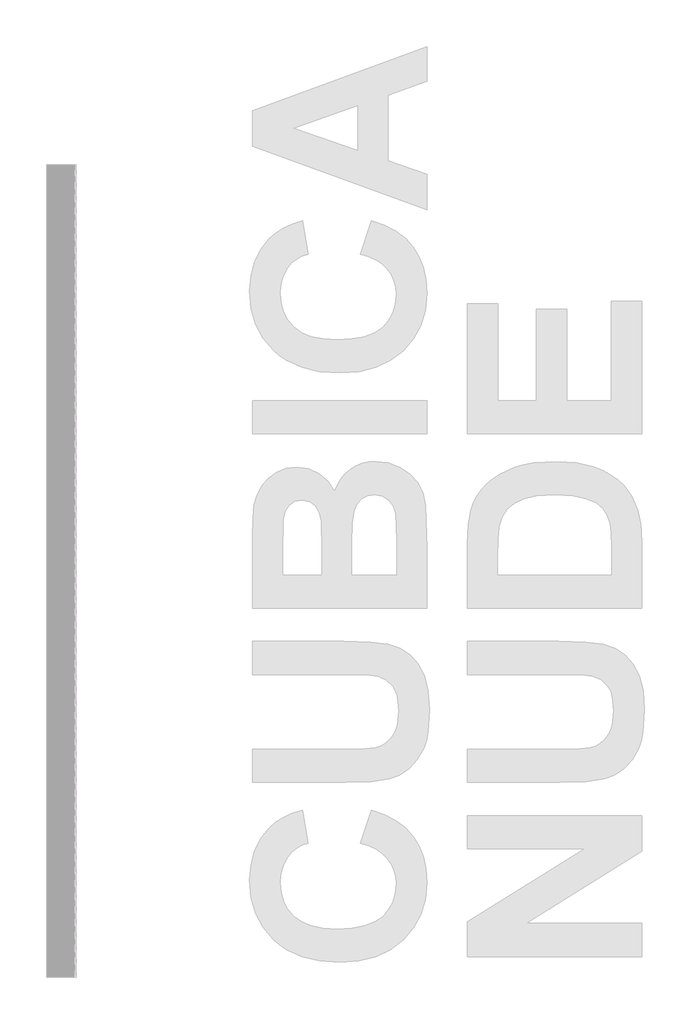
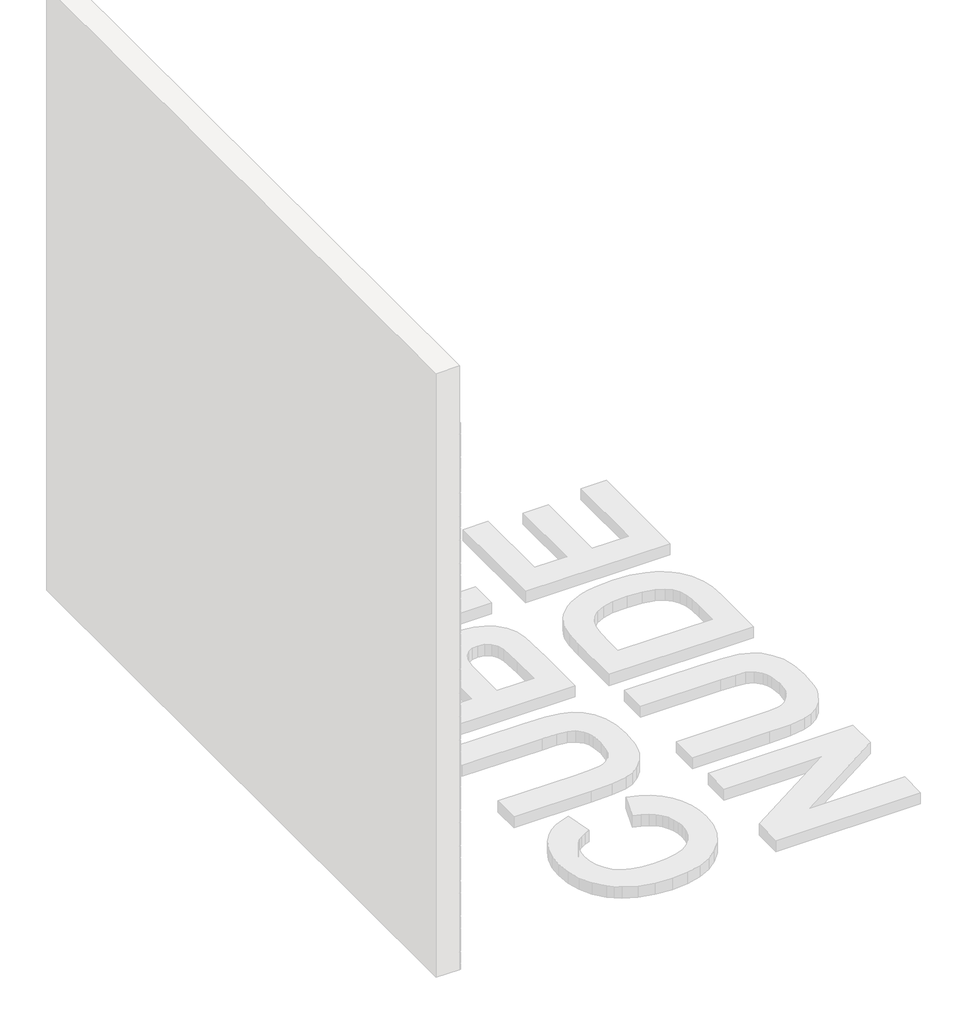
# One storey, part 64 of 121: 145 proxies.
"""IFC4 building model written with IfcOpenShell, lengths in millimetres."""

from ifc_helpers import new_model, si_unit, origin, place, context, project, spatial, transform, mapped, element, save
from components import generic_models_b2b2c5c1, generic_models_9bf73f6f, generic_models_5d175859, generic_models_95f85f1d

model = new_model("IFC4")

# Units and contexts
model_context = context("Model", 3, world=origin())
ifc_project = project(units=[si_unit("LENGTHUNIT", "METRE", prefix="MILLI")], contexts=[model_context])

# Site, building, storey
site = spatial("IfcSite", under=ifc_project)
building = spatial("IfcBuilding", under=site)
storey = spatial("IfcBuildingStorey", under=building, Name="PORTOBELLO - SHOWROOM", Elevation=0.0)

# Proxies
placement = place(None, origin())
generic_models_shape = generic_models_b2b2c5c1(model_context)
element("IfcBuildingElementProxy", 1, Name="PBSHOP - CUBICA NUDE 4,8X8,3 : CUBICA NUDE - POSIÇÃO 01", ObjectType="PBSHOP - CUBICA NUDE 4,8X8,3 : CUBICA NUDE - POSIÇÃO 01", at=placement, inside=storey, context=model_context, shape_type="MappedRepresentation", body=[
    mapped(generic_models_shape, transform((150369.5341846, 8940.0472844, 39.4221668), x_axis=(0.0, 1.0, 0.0), y_axis=(0.0, 0.0, 1.0), z_axis=(1.0, 0.0, 0.0))),
])
element("IfcBuildingElementProxy", 2, Name="PBSHOP - CUBICA NUDE 4,8X8,3 : CUBICA NUDE - POSIÇÃO 01", ObjectType="PBSHOP - CUBICA NUDE 4,8X8,3 : CUBICA NUDE - POSIÇÃO 01", at=placement, inside=storey, context=model_context, shape_type="MappedRepresentation", body=[
    mapped(generic_models_shape, transform((150369.5341846, 8077.0742266, 118.3568052), x_axis=(0.0, 1.0, 0.0), y_axis=(0.0, 0.0, 1.0), z_axis=(1.0, 0.0, 0.0))),
])
element("IfcBuildingElementProxy", 3, Name="PBSHOP - CUBICA NUDE 4,8X8,3 : CUBICA NUDE - POSIÇÃO 01", ObjectType="PBSHOP - CUBICA NUDE 4,8X8,3 : CUBICA NUDE - POSIÇÃO 01", at=placement, inside=storey, context=model_context, shape_type="MappedRepresentation", body=[
    mapped(generic_models_shape, transform((150369.5341846, 8167.9134958, 118.3568052), x_axis=(0.0, 1.0, 0.0), y_axis=(0.0, 0.0, 1.0), z_axis=(1.0, 0.0, 0.0))),
])
element("IfcBuildingElementProxy", 4, Name="PBSHOP - CUBICA NUDE 4,8X8,3 : CUBICA NUDE - POSIÇÃO 01", ObjectType="PBSHOP - CUBICA NUDE 4,8X8,3 : CUBICA NUDE - POSIÇÃO 01", at=placement, inside=storey, context=model_context, shape_type="MappedRepresentation", body=[
    mapped(generic_models_shape, transform((150369.5341846, 8258.7527651, 118.3568052), x_axis=(0.0, 1.0, 0.0), y_axis=(0.0, 0.0, 1.0), z_axis=(1.0, 0.0, 0.0))),
])
element("IfcBuildingElementProxy", 5, Name="PBSHOP - CUBICA NUDE 4,8X8,3 : CUBICA NUDE - POSIÇÃO 01", ObjectType="PBSHOP - CUBICA NUDE 4,8X8,3 : CUBICA NUDE - POSIÇÃO 01", at=placement, inside=storey, context=model_context, shape_type="MappedRepresentation", body=[
    mapped(generic_models_shape, transform((150369.5341846, 8349.5920343, 118.3568052), x_axis=(0.0, 1.0, 0.0), y_axis=(0.0, 0.0, 1.0), z_axis=(1.0, 0.0, 0.0))),
])
element("IfcBuildingElementProxy", 6, Name="PBSHOP - CUBICA NUDE 4,8X8,3 : CUBICA NUDE - POSIÇÃO 01", ObjectType="PBSHOP - CUBICA NUDE 4,8X8,3 : CUBICA NUDE - POSIÇÃO 01", at=placement, inside=storey, context=model_context, shape_type="MappedRepresentation", body=[
    mapped(generic_models_shape, transform((150369.5341846, 8440.4313036, 118.3568052), x_axis=(0.0, 1.0, 0.0), y_axis=(0.0, 0.0, 1.0), z_axis=(1.0, 0.0, 0.0))),
])
element("IfcBuildingElementProxy", 7, Name="PBSHOP - CUBICA NUDE 4,8X8,3 : CUBICA NUDE - POSIÇÃO 01", ObjectType="PBSHOP - CUBICA NUDE 4,8X8,3 : CUBICA NUDE - POSIÇÃO 01", at=placement, inside=storey, context=model_context, shape_type="MappedRepresentation", body=[
    mapped(generic_models_shape, transform((150369.5341846, 8531.2705728, 118.3568052), x_axis=(0.0, 1.0, 0.0), y_axis=(0.0, 0.0, 1.0), z_axis=(1.0, 0.0, 0.0))),
])
element("IfcBuildingElementProxy", 8, Name="PBSHOP - CUBICA NUDE 4,8X8,3 : CUBICA NUDE - POSIÇÃO 01", ObjectType="PBSHOP - CUBICA NUDE 4,8X8,3 : CUBICA NUDE - POSIÇÃO 01", at=placement, inside=storey, context=model_context, shape_type="MappedRepresentation", body=[
    mapped(generic_models_shape, transform((150369.5341846, 8622.109842, 118.3568052), x_axis=(0.0, 1.0, 0.0), y_axis=(0.0, 0.0, 1.0), z_axis=(1.0, 0.0, 0.0))),
])
element("IfcBuildingElementProxy", 9, Name="PBSHOP - CUBICA NUDE 4,8X8,3 : CUBICA NUDE - POSIÇÃO 01", ObjectType="PBSHOP - CUBICA NUDE 4,8X8,3 : CUBICA NUDE - POSIÇÃO 01", at=placement, inside=storey, context=model_context, shape_type="MappedRepresentation", body=[
    mapped(generic_models_shape, transform((150369.5341846, 8712.9491113, 118.3568052), x_axis=(0.0, 1.0, 0.0), y_axis=(0.0, 0.0, 1.0), z_axis=(1.0, 0.0, 0.0))),
])
element("IfcBuildingElementProxy", 10, Name="PBSHOP - CUBICA NUDE 4,8X8,3 : CUBICA NUDE - POSIÇÃO 01", ObjectType="PBSHOP - CUBICA NUDE 4,8X8,3 : CUBICA NUDE - POSIÇÃO 01", at=placement, inside=storey, context=model_context, shape_type="MappedRepresentation", body=[
    mapped(generic_models_shape, transform((150369.5341846, 8803.7883805, 118.3568052), x_axis=(0.0, 1.0, 0.0), y_axis=(0.0, 0.0, 1.0), z_axis=(1.0, 0.0, 0.0))),
])
element("IfcBuildingElementProxy", 11, Name="PBSHOP - CUBICA NUDE 4,8X8,3 : CUBICA NUDE - POSIÇÃO 01", ObjectType="PBSHOP - CUBICA NUDE 4,8X8,3 : CUBICA NUDE - POSIÇÃO 01", at=placement, inside=storey, context=model_context, shape_type="MappedRepresentation", body=[
    mapped(generic_models_shape, transform((150369.5341846, 8894.6276498, 118.3568052), x_axis=(0.0, 1.0, 0.0), y_axis=(0.0, 0.0, 1.0), z_axis=(1.0, 0.0, 0.0))),
])
element("IfcBuildingElementProxy", 12, Name="PBSHOP - CUBICA NUDE 4,8X8,3 : CUBICA NUDE - POSIÇÃO 01", ObjectType="PBSHOP - CUBICA NUDE 4,8X8,3 : CUBICA NUDE - POSIÇÃO 01", at=placement, inside=storey, context=model_context, shape_type="MappedRepresentation", body=[
    mapped(generic_models_shape, transform((150369.5341846, 8985.466919, 118.3568052), x_axis=(0.0, 1.0, 0.0), y_axis=(0.0, 0.0, 1.0), z_axis=(1.0, 0.0, 0.0))),
])
element("IfcBuildingElementProxy", 13, Name="PBSHOP - CUBICA NUDE 4,8X8,3 : CUBICA NUDE - POSIÇÃO 01", ObjectType="PBSHOP - CUBICA NUDE 4,8X8,3 : CUBICA NUDE - POSIÇÃO 01", at=placement, inside=storey, context=model_context, shape_type="MappedRepresentation", body=[
    mapped(generic_models_shape, transform((150369.5341846, 8031.654592, 197.2914436), x_axis=(0.0, 1.0, 0.0), y_axis=(0.0, 0.0, 1.0), z_axis=(1.0, 0.0, 0.0))),
])
element("IfcBuildingElementProxy", 14, Name="PBSHOP - CUBICA NUDE 4,8X8,3 : CUBICA NUDE - POSIÇÃO 01", ObjectType="PBSHOP - CUBICA NUDE 4,8X8,3 : CUBICA NUDE - POSIÇÃO 01", at=placement, inside=storey, context=model_context, shape_type="MappedRepresentation", body=[
    mapped(generic_models_shape, transform((150369.5341846, 8122.4938612, 197.2914436), x_axis=(0.0, 1.0, 0.0), y_axis=(0.0, 0.0, 1.0), z_axis=(1.0, 0.0, 0.0))),
])
element("IfcBuildingElementProxy", 15, Name="PBSHOP - CUBICA NUDE 4,8X8,3 : CUBICA NUDE - POSIÇÃO 01", ObjectType="PBSHOP - CUBICA NUDE 4,8X8,3 : CUBICA NUDE - POSIÇÃO 01", at=placement, inside=storey, context=model_context, shape_type="MappedRepresentation", body=[
    mapped(generic_models_shape, transform((150369.5341846, 8213.3331304, 197.2914436), x_axis=(0.0, 1.0, 0.0), y_axis=(0.0, 0.0, 1.0), z_axis=(1.0, 0.0, 0.0))),
])
element("IfcBuildingElementProxy", 16, Name="PBSHOP - CUBICA NUDE 4,8X8,3 : CUBICA NUDE - POSIÇÃO 01", ObjectType="PBSHOP - CUBICA NUDE 4,8X8,3 : CUBICA NUDE - POSIÇÃO 01", at=placement, inside=storey, context=model_context, shape_type="MappedRepresentation", body=[
    mapped(generic_models_shape, transform((150369.5341846, 8304.1723997, 197.2914436), x_axis=(0.0, 1.0, 0.0), y_axis=(0.0, 0.0, 1.0), z_axis=(1.0, 0.0, 0.0))),
])
element("IfcBuildingElementProxy", 17, Name="PBSHOP - CUBICA NUDE 4,8X8,3 : CUBICA NUDE - POSIÇÃO 01", ObjectType="PBSHOP - CUBICA NUDE 4,8X8,3 : CUBICA NUDE - POSIÇÃO 01", at=placement, inside=storey, context=model_context, shape_type="MappedRepresentation", body=[
    mapped(generic_models_shape, transform((150369.5341846, 8395.0116689, 197.2914436), x_axis=(0.0, 1.0, 0.0), y_axis=(0.0, 0.0, 1.0), z_axis=(1.0, 0.0, 0.0))),
])
element("IfcBuildingElementProxy", 18, Name="PBSHOP - CUBICA NUDE 4,8X8,3 : CUBICA NUDE - POSIÇÃO 01", ObjectType="PBSHOP - CUBICA NUDE 4,8X8,3 : CUBICA NUDE - POSIÇÃO 01", at=placement, inside=storey, context=model_context, shape_type="MappedRepresentation", body=[
    mapped(generic_models_shape, transform((150369.5341846, 8485.8509382, 197.2914436), x_axis=(0.0, 1.0, 0.0), y_axis=(0.0, 0.0, 1.0), z_axis=(1.0, 0.0, 0.0))),
])
element("IfcBuildingElementProxy", 19, Name="PBSHOP - CUBICA NUDE 4,8X8,3 : CUBICA NUDE - POSIÇÃO 01", ObjectType="PBSHOP - CUBICA NUDE 4,8X8,3 : CUBICA NUDE - POSIÇÃO 01", at=placement, inside=storey, context=model_context, shape_type="MappedRepresentation", body=[
    mapped(generic_models_shape, transform((150369.5341846, 8576.6902074, 197.2914436), x_axis=(0.0, 1.0, 0.0), y_axis=(0.0, 0.0, 1.0), z_axis=(1.0, 0.0, 0.0))),
])
element("IfcBuildingElementProxy", 20, Name="PBSHOP - CUBICA NUDE 4,8X8,3 : CUBICA NUDE - POSIÇÃO 01", ObjectType="PBSHOP - CUBICA NUDE 4,8X8,3 : CUBICA NUDE - POSIÇÃO 01", at=placement, inside=storey, context=model_context, shape_type="MappedRepresentation", body=[
    mapped(generic_models_shape, transform((150369.5341846, 8667.5294767, 197.2914436), x_axis=(0.0, 1.0, 0.0), y_axis=(0.0, 0.0, 1.0), z_axis=(1.0, 0.0, 0.0))),
])
element("IfcBuildingElementProxy", 21, Name="PBSHOP - CUBICA NUDE 4,8X8,3 : CUBICA NUDE - POSIÇÃO 01", ObjectType="PBSHOP - CUBICA NUDE 4,8X8,3 : CUBICA NUDE - POSIÇÃO 01", at=placement, inside=storey, context=model_context, shape_type="MappedRepresentation", body=[
    mapped(generic_models_shape, transform((150369.5341846, 8758.3687459, 197.2914436), x_axis=(0.0, 1.0, 0.0), y_axis=(0.0, 0.0, 1.0), z_axis=(1.0, 0.0, 0.0))),
])
element("IfcBuildingElementProxy", 22, Name="PBSHOP - CUBICA NUDE 4,8X8,3 : CUBICA NUDE - POSIÇÃO 01", ObjectType="PBSHOP - CUBICA NUDE 4,8X8,3 : CUBICA NUDE - POSIÇÃO 01", at=placement, inside=storey, context=model_context, shape_type="MappedRepresentation", body=[
    mapped(generic_models_shape, transform((150369.5341846, 8849.2080152, 197.2914436), x_axis=(0.0, 1.0, 0.0), y_axis=(0.0, 0.0, 1.0), z_axis=(1.0, 0.0, 0.0))),
])
element("IfcBuildingElementProxy", 23, Name="PBSHOP - CUBICA NUDE 4,8X8,3 : CUBICA NUDE - POSIÇÃO 01", ObjectType="PBSHOP - CUBICA NUDE 4,8X8,3 : CUBICA NUDE - POSIÇÃO 01", at=placement, inside=storey, context=model_context, shape_type="MappedRepresentation", body=[
    mapped(generic_models_shape, transform((150369.5341846, 8940.0472844, 197.2914436), x_axis=(0.0, 1.0, 0.0), y_axis=(0.0, 0.0, 1.0), z_axis=(1.0, 0.0, 0.0))),
])
element("IfcBuildingElementProxy", 24, Name="PBSHOP - CUBICA NUDE 4,8X8,3 : CUBICA NUDE - POSIÇÃO 01", ObjectType="PBSHOP - CUBICA NUDE 4,8X8,3 : CUBICA NUDE - POSIÇÃO 01", at=placement, inside=storey, context=model_context, shape_type="MappedRepresentation", body=[
    mapped(generic_models_shape, transform((150369.5341846, 8077.0742266, 276.2260819), x_axis=(0.0, 1.0, 0.0), y_axis=(0.0, 0.0, 1.0), z_axis=(1.0, 0.0, 0.0))),
])
element("IfcBuildingElementProxy", 25, Name="PBSHOP - CUBICA NUDE 4,8X8,3 : CUBICA NUDE - POSIÇÃO 01", ObjectType="PBSHOP - CUBICA NUDE 4,8X8,3 : CUBICA NUDE - POSIÇÃO 01", at=placement, inside=storey, context=model_context, shape_type="MappedRepresentation", body=[
    mapped(generic_models_shape, transform((150369.5341846, 8167.9134958, 276.2260819), x_axis=(0.0, 1.0, 0.0), y_axis=(0.0, 0.0, 1.0), z_axis=(1.0, 0.0, 0.0))),
])
element("IfcBuildingElementProxy", 26, Name="PBSHOP - CUBICA NUDE 4,8X8,3 : CUBICA NUDE - POSIÇÃO 01", ObjectType="PBSHOP - CUBICA NUDE 4,8X8,3 : CUBICA NUDE - POSIÇÃO 01", at=placement, inside=storey, context=model_context, shape_type="MappedRepresentation", body=[
    mapped(generic_models_shape, transform((150369.5341846, 8258.7527651, 276.2260819), x_axis=(0.0, 1.0, 0.0), y_axis=(0.0, 0.0, 1.0), z_axis=(1.0, 0.0, 0.0))),
])
element("IfcBuildingElementProxy", 27, Name="PBSHOP - CUBICA NUDE 4,8X8,3 : CUBICA NUDE - POSIÇÃO 01", ObjectType="PBSHOP - CUBICA NUDE 4,8X8,3 : CUBICA NUDE - POSIÇÃO 01", at=placement, inside=storey, context=model_context, shape_type="MappedRepresentation", body=[
    mapped(generic_models_shape, transform((150369.5341846, 8349.5920343, 276.2260819), x_axis=(0.0, 1.0, 0.0), y_axis=(0.0, 0.0, 1.0), z_axis=(1.0, 0.0, 0.0))),
])
element("IfcBuildingElementProxy", 28, Name="PBSHOP - CUBICA NUDE 4,8X8,3 : CUBICA NUDE - POSIÇÃO 01", ObjectType="PBSHOP - CUBICA NUDE 4,8X8,3 : CUBICA NUDE - POSIÇÃO 01", at=placement, inside=storey, context=model_context, shape_type="MappedRepresentation", body=[
    mapped(generic_models_shape, transform((150369.5341846, 8440.4313036, 276.2260819), x_axis=(0.0, 1.0, 0.0), y_axis=(0.0, 0.0, 1.0), z_axis=(1.0, 0.0, 0.0))),
])
element("IfcBuildingElementProxy", 29, Name="PBSHOP - CUBICA NUDE 4,8X8,3 : CUBICA NUDE - POSIÇÃO 01", ObjectType="PBSHOP - CUBICA NUDE 4,8X8,3 : CUBICA NUDE - POSIÇÃO 01", at=placement, inside=storey, context=model_context, shape_type="MappedRepresentation", body=[
    mapped(generic_models_shape, transform((150369.5341846, 8531.2705728, 276.2260819), x_axis=(0.0, 1.0, 0.0), y_axis=(0.0, 0.0, 1.0), z_axis=(1.0, 0.0, 0.0))),
])
element("IfcBuildingElementProxy", 30, Name="PBSHOP - CUBICA NUDE 4,8X8,3 : CUBICA NUDE - POSIÇÃO 01", ObjectType="PBSHOP - CUBICA NUDE 4,8X8,3 : CUBICA NUDE - POSIÇÃO 01", at=placement, inside=storey, context=model_context, shape_type="MappedRepresentation", body=[
    mapped(generic_models_shape, transform((150369.5341846, 8622.109842, 276.2260819), x_axis=(0.0, 1.0, 0.0), y_axis=(0.0, 0.0, 1.0), z_axis=(1.0, 0.0, 0.0))),
])
element("IfcBuildingElementProxy", 31, Name="PBSHOP - CUBICA NUDE 4,8X8,3 : CUBICA NUDE - POSIÇÃO 01", ObjectType="PBSHOP - CUBICA NUDE 4,8X8,3 : CUBICA NUDE - POSIÇÃO 01", at=placement, inside=storey, context=model_context, shape_type="MappedRepresentation", body=[
    mapped(generic_models_shape, transform((150369.5341846, 8712.9491113, 276.2260819), x_axis=(0.0, 1.0, 0.0), y_axis=(0.0, 0.0, 1.0), z_axis=(1.0, 0.0, 0.0))),
])
element("IfcBuildingElementProxy", 32, Name="PBSHOP - CUBICA NUDE 4,8X8,3 : CUBICA NUDE - POSIÇÃO 01", ObjectType="PBSHOP - CUBICA NUDE 4,8X8,3 : CUBICA NUDE - POSIÇÃO 01", at=placement, inside=storey, context=model_context, shape_type="MappedRepresentation", body=[
    mapped(generic_models_shape, transform((150369.5341846, 8803.7883805, 276.2260819), x_axis=(0.0, 1.0, 0.0), y_axis=(0.0, 0.0, 1.0), z_axis=(1.0, 0.0, 0.0))),
])
element("IfcBuildingElementProxy", 33, Name="PBSHOP - CUBICA NUDE 4,8X8,3 : CUBICA NUDE - POSIÇÃO 01", ObjectType="PBSHOP - CUBICA NUDE 4,8X8,3 : CUBICA NUDE - POSIÇÃO 01", at=placement, inside=storey, context=model_context, shape_type="MappedRepresentation", body=[
    mapped(generic_models_shape, transform((150369.5341846, 8894.6276498, 276.2260819), x_axis=(0.0, 1.0, 0.0), y_axis=(0.0, 0.0, 1.0), z_axis=(1.0, 0.0, 0.0))),
])
element("IfcBuildingElementProxy", 34, Name="PBSHOP - CUBICA NUDE 4,8X8,3 : CUBICA NUDE - POSIÇÃO 01", ObjectType="PBSHOP - CUBICA NUDE 4,8X8,3 : CUBICA NUDE - POSIÇÃO 01", at=placement, inside=storey, context=model_context, shape_type="MappedRepresentation", body=[
    mapped(generic_models_shape, transform((150369.5341846, 8985.466919, 276.2260819), x_axis=(0.0, 1.0, 0.0), y_axis=(0.0, 0.0, 1.0), z_axis=(1.0, 0.0, 0.0))),
])
element("IfcBuildingElementProxy", 35, Name="PBSHOP - CUBICA NUDE 4,8X8,3 : CUBICA NUDE - POSIÇÃO 01", ObjectType="PBSHOP - CUBICA NUDE 4,8X8,3 : CUBICA NUDE - POSIÇÃO 01", at=placement, inside=storey, context=model_context, shape_type="MappedRepresentation", body=[
    mapped(generic_models_shape, transform((150369.5341846, 8031.654592, 355.1607203), x_axis=(0.0, 1.0, 0.0), y_axis=(0.0, 0.0, 1.0), z_axis=(1.0, 0.0, 0.0))),
])
element("IfcBuildingElementProxy", 36, Name="PBSHOP - CUBICA NUDE 4,8X8,3 : CUBICA NUDE - POSIÇÃO 01", ObjectType="PBSHOP - CUBICA NUDE 4,8X8,3 : CUBICA NUDE - POSIÇÃO 01", at=placement, inside=storey, context=model_context, shape_type="MappedRepresentation", body=[
    mapped(generic_models_shape, transform((150369.5341846, 8122.4938612, 355.1607203), x_axis=(0.0, 1.0, 0.0), y_axis=(0.0, 0.0, 1.0), z_axis=(1.0, 0.0, 0.0))),
])
element("IfcBuildingElementProxy", 37, Name="PBSHOP - CUBICA NUDE 4,8X8,3 : CUBICA NUDE - POSIÇÃO 01", ObjectType="PBSHOP - CUBICA NUDE 4,8X8,3 : CUBICA NUDE - POSIÇÃO 01", at=placement, inside=storey, context=model_context, shape_type="MappedRepresentation", body=[
    mapped(generic_models_shape, transform((150369.5341846, 8213.3331304, 355.1607203), x_axis=(0.0, 1.0, 0.0), y_axis=(0.0, 0.0, 1.0), z_axis=(1.0, 0.0, 0.0))),
])
element("IfcBuildingElementProxy", 38, Name="PBSHOP - CUBICA NUDE 4,8X8,3 : CUBICA NUDE - POSIÇÃO 01", ObjectType="PBSHOP - CUBICA NUDE 4,8X8,3 : CUBICA NUDE - POSIÇÃO 01", at=placement, inside=storey, context=model_context, shape_type="MappedRepresentation", body=[
    mapped(generic_models_shape, transform((150369.5341846, 8304.1723997, 355.1607203), x_axis=(0.0, 1.0, 0.0), y_axis=(0.0, 0.0, 1.0), z_axis=(1.0, 0.0, 0.0))),
])
element("IfcBuildingElementProxy", 39, Name="PBSHOP - CUBICA NUDE 4,8X8,3 : CUBICA NUDE - POSIÇÃO 01", ObjectType="PBSHOP - CUBICA NUDE 4,8X8,3 : CUBICA NUDE - POSIÇÃO 01", at=placement, inside=storey, context=model_context, shape_type="MappedRepresentation", body=[
    mapped(generic_models_shape, transform((150369.5341846, 8395.0116689, 355.1607203), x_axis=(0.0, 1.0, 0.0), y_axis=(0.0, 0.0, 1.0), z_axis=(1.0, 0.0, 0.0))),
])
element("IfcBuildingElementProxy", 40, Name="PBSHOP - CUBICA NUDE 4,8X8,3 : CUBICA NUDE - POSIÇÃO 01", ObjectType="PBSHOP - CUBICA NUDE 4,8X8,3 : CUBICA NUDE - POSIÇÃO 01", at=placement, inside=storey, context=model_context, shape_type="MappedRepresentation", body=[
    mapped(generic_models_shape, transform((150369.5341846, 8485.8509382, 355.1607203), x_axis=(0.0, 1.0, 0.0), y_axis=(0.0, 0.0, 1.0), z_axis=(1.0, 0.0, 0.0))),
])
element("IfcBuildingElementProxy", 41, Name="PBSHOP - CUBICA NUDE 4,8X8,3 : CUBICA NUDE - POSIÇÃO 01", ObjectType="PBSHOP - CUBICA NUDE 4,8X8,3 : CUBICA NUDE - POSIÇÃO 01", at=placement, inside=storey, context=model_context, shape_type="MappedRepresentation", body=[
    mapped(generic_models_shape, transform((150369.5341846, 8576.6902074, 355.1607203), x_axis=(0.0, 1.0, 0.0), y_axis=(0.0, 0.0, 1.0), z_axis=(1.0, 0.0, 0.0))),
])
element("IfcBuildingElementProxy", 42, Name="PBSHOP - CUBICA NUDE 4,8X8,3 : CUBICA NUDE - POSIÇÃO 01", ObjectType="PBSHOP - CUBICA NUDE 4,8X8,3 : CUBICA NUDE - POSIÇÃO 01", at=placement, inside=storey, context=model_context, shape_type="MappedRepresentation", body=[
    mapped(generic_models_shape, transform((150369.5341846, 8667.5294767, 355.1607203), x_axis=(0.0, 1.0, 0.0), y_axis=(0.0, 0.0, 1.0), z_axis=(1.0, 0.0, 0.0))),
])
element("IfcBuildingElementProxy", 43, Name="PBSHOP - CUBICA NUDE 4,8X8,3 : CUBICA NUDE - POSIÇÃO 01", ObjectType="PBSHOP - CUBICA NUDE 4,8X8,3 : CUBICA NUDE - POSIÇÃO 01", at=placement, inside=storey, context=model_context, shape_type="MappedRepresentation", body=[
    mapped(generic_models_shape, transform((150369.5341846, 8758.3687459, 355.1607203), x_axis=(0.0, 1.0, 0.0), y_axis=(0.0, 0.0, 1.0), z_axis=(1.0, 0.0, 0.0))),
])
element("IfcBuildingElementProxy", 44, Name="PBSHOP - CUBICA NUDE 4,8X8,3 : CUBICA NUDE - POSIÇÃO 01", ObjectType="PBSHOP - CUBICA NUDE 4,8X8,3 : CUBICA NUDE - POSIÇÃO 01", at=placement, inside=storey, context=model_context, shape_type="MappedRepresentation", body=[
    mapped(generic_models_shape, transform((150369.5341846, 8849.2080152, 355.1607203), x_axis=(0.0, 1.0, 0.0), y_axis=(0.0, 0.0, 1.0), z_axis=(1.0, 0.0, 0.0))),
])
element("IfcBuildingElementProxy", 45, Name="PBSHOP - CUBICA NUDE 4,8X8,3 : CUBICA NUDE - POSIÇÃO 01", ObjectType="PBSHOP - CUBICA NUDE 4,8X8,3 : CUBICA NUDE - POSIÇÃO 01", at=placement, inside=storey, context=model_context, shape_type="MappedRepresentation", body=[
    mapped(generic_models_shape, transform((150369.5341846, 8940.0472844, 355.1607203), x_axis=(0.0, 1.0, 0.0), y_axis=(0.0, 0.0, 1.0), z_axis=(1.0, 0.0, 0.0))),
])
generic_models_2_shape = generic_models_9bf73f6f(model_context)
element("IfcBuildingElementProxy", 46, Name="PBSHOP - CUBICA NUDE 4,8X8,3 : CUBICA NUDE - POSIÇÃO 03", ObjectType="PBSHOP - CUBICA NUDE 4,8X8,3 : CUBICA NUDE - POSIÇÃO 03", at=placement, inside=storey, context=model_context, shape_type="MappedRepresentation", body=[
    mapped(generic_models_2_shape, transform((150369.5341846, 8054.3665684, 78.8482756), x_axis=(0.0, 1.0, 0.0), y_axis=(0.0, 0.0, 1.0), z_axis=(1.0, 0.0, 0.0))),
])
element("IfcBuildingElementProxy", 47, Name="PBSHOP - CUBICA NUDE 4,8X8,3 : CUBICA NUDE - POSIÇÃO 03", ObjectType="PBSHOP - CUBICA NUDE 4,8X8,3 : CUBICA NUDE - POSIÇÃO 03", at=placement, inside=storey, context=model_context, shape_type="MappedRepresentation", body=[
    mapped(generic_models_2_shape, transform((150369.5341846, 8145.2058377, 78.8482756), x_axis=(0.0, 1.0, 0.0), y_axis=(0.0, 0.0, 1.0), z_axis=(1.0, 0.0, 0.0))),
])
element("IfcBuildingElementProxy", 48, Name="PBSHOP - CUBICA NUDE 4,8X8,3 : CUBICA NUDE - POSIÇÃO 03", ObjectType="PBSHOP - CUBICA NUDE 4,8X8,3 : CUBICA NUDE - POSIÇÃO 03", at=placement, inside=storey, context=model_context, shape_type="MappedRepresentation", body=[
    mapped(generic_models_2_shape, transform((150369.5341846, 8236.0451069, 78.8482756), x_axis=(0.0, 1.0, 0.0), y_axis=(0.0, 0.0, 1.0), z_axis=(1.0, 0.0, 0.0))),
])
element("IfcBuildingElementProxy", 49, Name="PBSHOP - CUBICA NUDE 4,8X8,3 : CUBICA NUDE - POSIÇÃO 03", ObjectType="PBSHOP - CUBICA NUDE 4,8X8,3 : CUBICA NUDE - POSIÇÃO 03", at=placement, inside=storey, context=model_context, shape_type="MappedRepresentation", body=[
    mapped(generic_models_2_shape, transform((150369.5341846, 8326.8843762, 78.8482756), x_axis=(0.0, 1.0, 0.0), y_axis=(0.0, 0.0, 1.0), z_axis=(1.0, 0.0, 0.0))),
])
element("IfcBuildingElementProxy", 50, Name="PBSHOP - CUBICA NUDE 4,8X8,3 : CUBICA NUDE - POSIÇÃO 03", ObjectType="PBSHOP - CUBICA NUDE 4,8X8,3 : CUBICA NUDE - POSIÇÃO 03", at=placement, inside=storey, context=model_context, shape_type="MappedRepresentation", body=[
    mapped(generic_models_2_shape, transform((150369.5341846, 8417.7236454, 78.8482756), x_axis=(0.0, 1.0, 0.0), y_axis=(0.0, 0.0, 1.0), z_axis=(1.0, 0.0, 0.0))),
])
element("IfcBuildingElementProxy", 51, Name="PBSHOP - CUBICA NUDE 4,8X8,3 : CUBICA NUDE - POSIÇÃO 03", ObjectType="PBSHOP - CUBICA NUDE 4,8X8,3 : CUBICA NUDE - POSIÇÃO 03", at=placement, inside=storey, context=model_context, shape_type="MappedRepresentation", body=[
    mapped(generic_models_2_shape, transform((150369.5341846, 8508.5629147, 78.8482756), x_axis=(0.0, 1.0, 0.0), y_axis=(0.0, 0.0, 1.0), z_axis=(1.0, 0.0, 0.0))),
])
element("IfcBuildingElementProxy", 52, Name="PBSHOP - CUBICA NUDE 4,8X8,3 : CUBICA NUDE - POSIÇÃO 03", ObjectType="PBSHOP - CUBICA NUDE 4,8X8,3 : CUBICA NUDE - POSIÇÃO 03", at=placement, inside=storey, context=model_context, shape_type="MappedRepresentation", body=[
    mapped(generic_models_2_shape, transform((150369.5341846, 8599.4021839, 78.8482756), x_axis=(0.0, 1.0, 0.0), y_axis=(0.0, 0.0, 1.0), z_axis=(1.0, 0.0, 0.0))),
])
element("IfcBuildingElementProxy", 53, Name="PBSHOP - CUBICA NUDE 4,8X8,3 : CUBICA NUDE - POSIÇÃO 03", ObjectType="PBSHOP - CUBICA NUDE 4,8X8,3 : CUBICA NUDE - POSIÇÃO 03", at=placement, inside=storey, context=model_context, shape_type="MappedRepresentation", body=[
    mapped(generic_models_2_shape, transform((150369.5341846, 8690.2414531, 78.8482756), x_axis=(0.0, 1.0, 0.0), y_axis=(0.0, 0.0, 1.0), z_axis=(1.0, 0.0, 0.0))),
])
element("IfcBuildingElementProxy", 54, Name="PBSHOP - CUBICA NUDE 4,8X8,3 : CUBICA NUDE - POSIÇÃO 03", ObjectType="PBSHOP - CUBICA NUDE 4,8X8,3 : CUBICA NUDE - POSIÇÃO 03", at=placement, inside=storey, context=model_context, shape_type="MappedRepresentation", body=[
    mapped(generic_models_2_shape, transform((150369.5341846, 8781.0807224, 78.8482756), x_axis=(0.0, 1.0, 0.0), y_axis=(0.0, 0.0, 1.0), z_axis=(1.0, 0.0, 0.0))),
])
element("IfcBuildingElementProxy", 55, Name="PBSHOP - CUBICA NUDE 4,8X8,3 : CUBICA NUDE - POSIÇÃO 03", ObjectType="PBSHOP - CUBICA NUDE 4,8X8,3 : CUBICA NUDE - POSIÇÃO 03", at=placement, inside=storey, context=model_context, shape_type="MappedRepresentation", body=[
    mapped(generic_models_2_shape, transform((150369.5341846, 8871.9199916, 78.8482756), x_axis=(0.0, 1.0, 0.0), y_axis=(0.0, 0.0, 1.0), z_axis=(1.0, 0.0, 0.0))),
])
element("IfcBuildingElementProxy", 56, Name="PBSHOP - CUBICA NUDE 4,8X8,3 : CUBICA NUDE - POSIÇÃO 03", ObjectType="PBSHOP - CUBICA NUDE 4,8X8,3 : CUBICA NUDE - POSIÇÃO 03", at=placement, inside=storey, context=model_context, shape_type="MappedRepresentation", body=[
    mapped(generic_models_2_shape, transform((150369.5341846, 8962.7592609, 78.8482756), x_axis=(0.0, 1.0, 0.0), y_axis=(0.0, 0.0, 1.0), z_axis=(1.0, 0.0, 0.0))),
])
element("IfcBuildingElementProxy", 57, Name="PBSHOP - CUBICA NUDE 4,8X8,3 : CUBICA NUDE - POSIÇÃO 03", ObjectType="PBSHOP - CUBICA NUDE 4,8X8,3 : CUBICA NUDE - POSIÇÃO 03", at=placement, inside=storey, context=model_context, shape_type="MappedRepresentation", body=[
    mapped(generic_models_2_shape, transform((150369.5341846, 8008.9469338, 157.7829139), x_axis=(0.0, 1.0, 0.0), y_axis=(0.0, 0.0, 1.0), z_axis=(1.0, 0.0, 0.0))),
])
element("IfcBuildingElementProxy", 58, Name="PBSHOP - CUBICA NUDE 4,8X8,3 : CUBICA NUDE - POSIÇÃO 03", ObjectType="PBSHOP - CUBICA NUDE 4,8X8,3 : CUBICA NUDE - POSIÇÃO 03", at=placement, inside=storey, context=model_context, shape_type="MappedRepresentation", body=[
    mapped(generic_models_2_shape, transform((150369.5341846, 8099.7862031, 157.7829139), x_axis=(0.0, 1.0, 0.0), y_axis=(0.0, 0.0, 1.0), z_axis=(1.0, 0.0, 0.0))),
])
element("IfcBuildingElementProxy", 59, Name="PBSHOP - CUBICA NUDE 4,8X8,3 : CUBICA NUDE - POSIÇÃO 03", ObjectType="PBSHOP - CUBICA NUDE 4,8X8,3 : CUBICA NUDE - POSIÇÃO 03", at=placement, inside=storey, context=model_context, shape_type="MappedRepresentation", body=[
    mapped(generic_models_2_shape, transform((150369.5341846, 8190.6254723, 157.7829139), x_axis=(0.0, 1.0, 0.0), y_axis=(0.0, 0.0, 1.0), z_axis=(1.0, 0.0, 0.0))),
])
element("IfcBuildingElementProxy", 60, Name="PBSHOP - CUBICA NUDE 4,8X8,3 : CUBICA NUDE - POSIÇÃO 03", ObjectType="PBSHOP - CUBICA NUDE 4,8X8,3 : CUBICA NUDE - POSIÇÃO 03", at=placement, inside=storey, context=model_context, shape_type="MappedRepresentation", body=[
    mapped(generic_models_2_shape, transform((150369.5341846, 8281.4647415, 157.7829139), x_axis=(0.0, 1.0, 0.0), y_axis=(0.0, 0.0, 1.0), z_axis=(1.0, 0.0, 0.0))),
])
element("IfcBuildingElementProxy", 61, Name="PBSHOP - CUBICA NUDE 4,8X8,3 : CUBICA NUDE - POSIÇÃO 03", ObjectType="PBSHOP - CUBICA NUDE 4,8X8,3 : CUBICA NUDE - POSIÇÃO 03", at=placement, inside=storey, context=model_context, shape_type="MappedRepresentation", body=[
    mapped(generic_models_2_shape, transform((150369.5341846, 8372.3040108, 157.7829139), x_axis=(0.0, 1.0, 0.0), y_axis=(0.0, 0.0, 1.0), z_axis=(1.0, 0.0, 0.0))),
])
element("IfcBuildingElementProxy", 62, Name="PBSHOP - CUBICA NUDE 4,8X8,3 : CUBICA NUDE - POSIÇÃO 03", ObjectType="PBSHOP - CUBICA NUDE 4,8X8,3 : CUBICA NUDE - POSIÇÃO 03", at=placement, inside=storey, context=model_context, shape_type="MappedRepresentation", body=[
    mapped(generic_models_2_shape, transform((150369.5341846, 8463.14328, 157.7829139), x_axis=(0.0, 1.0, 0.0), y_axis=(0.0, 0.0, 1.0), z_axis=(1.0, 0.0, 0.0))),
])
element("IfcBuildingElementProxy", 63, Name="PBSHOP - CUBICA NUDE 4,8X8,3 : CUBICA NUDE - POSIÇÃO 03", ObjectType="PBSHOP - CUBICA NUDE 4,8X8,3 : CUBICA NUDE - POSIÇÃO 03", at=placement, inside=storey, context=model_context, shape_type="MappedRepresentation", body=[
    mapped(generic_models_2_shape, transform((150369.5341846, 8553.9825493, 157.7829139), x_axis=(0.0, 1.0, 0.0), y_axis=(0.0, 0.0, 1.0), z_axis=(1.0, 0.0, 0.0))),
])
element("IfcBuildingElementProxy", 64, Name="PBSHOP - CUBICA NUDE 4,8X8,3 : CUBICA NUDE - POSIÇÃO 03", ObjectType="PBSHOP - CUBICA NUDE 4,8X8,3 : CUBICA NUDE - POSIÇÃO 03", at=placement, inside=storey, context=model_context, shape_type="MappedRepresentation", body=[
    mapped(generic_models_2_shape, transform((150369.5341846, 8644.8218185, 157.7829139), x_axis=(0.0, 1.0, 0.0), y_axis=(0.0, 0.0, 1.0), z_axis=(1.0, 0.0, 0.0))),
])
element("IfcBuildingElementProxy", 65, Name="PBSHOP - CUBICA NUDE 4,8X8,3 : CUBICA NUDE - POSIÇÃO 03", ObjectType="PBSHOP - CUBICA NUDE 4,8X8,3 : CUBICA NUDE - POSIÇÃO 03", at=placement, inside=storey, context=model_context, shape_type="MappedRepresentation", body=[
    mapped(generic_models_2_shape, transform((150369.5341846, 8735.6610878, 157.7829139), x_axis=(0.0, 1.0, 0.0), y_axis=(0.0, 0.0, 1.0), z_axis=(1.0, 0.0, 0.0))),
])
element("IfcBuildingElementProxy", 66, Name="PBSHOP - CUBICA NUDE 4,8X8,3 : CUBICA NUDE - POSIÇÃO 03", ObjectType="PBSHOP - CUBICA NUDE 4,8X8,3 : CUBICA NUDE - POSIÇÃO 03", at=placement, inside=storey, context=model_context, shape_type="MappedRepresentation", body=[
    mapped(generic_models_2_shape, transform((150369.5341846, 8826.500357, 157.7829139), x_axis=(0.0, 1.0, 0.0), y_axis=(0.0, 0.0, 1.0), z_axis=(1.0, 0.0, 0.0))),
])
element("IfcBuildingElementProxy", 67, Name="PBSHOP - CUBICA NUDE 4,8X8,3 : CUBICA NUDE - POSIÇÃO 03", ObjectType="PBSHOP - CUBICA NUDE 4,8X8,3 : CUBICA NUDE - POSIÇÃO 03", at=placement, inside=storey, context=model_context, shape_type="MappedRepresentation", body=[
    mapped(generic_models_2_shape, transform((150369.5341846, 8917.3396263, 157.7829139), x_axis=(0.0, 1.0, 0.0), y_axis=(0.0, 0.0, 1.0), z_axis=(1.0, 0.0, 0.0))),
])
element("IfcBuildingElementProxy", 68, Name="PBSHOP - CUBICA NUDE 4,8X8,3 : CUBICA NUDE - POSIÇÃO 03", ObjectType="PBSHOP - CUBICA NUDE 4,8X8,3 : CUBICA NUDE - POSIÇÃO 03", at=placement, inside=storey, context=model_context, shape_type="MappedRepresentation", body=[
    mapped(generic_models_2_shape, transform((150369.5341846, 8054.3665684, 236.7175523), x_axis=(0.0, 1.0, 0.0), y_axis=(0.0, 0.0, 1.0), z_axis=(1.0, 0.0, 0.0))),
])
element("IfcBuildingElementProxy", 69, Name="PBSHOP - CUBICA NUDE 4,8X8,3 : CUBICA NUDE - POSIÇÃO 03", ObjectType="PBSHOP - CUBICA NUDE 4,8X8,3 : CUBICA NUDE - POSIÇÃO 03", at=placement, inside=storey, context=model_context, shape_type="MappedRepresentation", body=[
    mapped(generic_models_2_shape, transform((150369.5341846, 8145.2058377, 236.7175523), x_axis=(0.0, 1.0, 0.0), y_axis=(0.0, 0.0, 1.0), z_axis=(1.0, 0.0, 0.0))),
])
element("IfcBuildingElementProxy", 70, Name="PBSHOP - CUBICA NUDE 4,8X8,3 : CUBICA NUDE - POSIÇÃO 03", ObjectType="PBSHOP - CUBICA NUDE 4,8X8,3 : CUBICA NUDE - POSIÇÃO 03", at=placement, inside=storey, context=model_context, shape_type="MappedRepresentation", body=[
    mapped(generic_models_2_shape, transform((150369.5341846, 8236.0451069, 236.7175523), x_axis=(0.0, 1.0, 0.0), y_axis=(0.0, 0.0, 1.0), z_axis=(1.0, 0.0, 0.0))),
])
element("IfcBuildingElementProxy", 71, Name="PBSHOP - CUBICA NUDE 4,8X8,3 : CUBICA NUDE - POSIÇÃO 03", ObjectType="PBSHOP - CUBICA NUDE 4,8X8,3 : CUBICA NUDE - POSIÇÃO 03", at=placement, inside=storey, context=model_context, shape_type="MappedRepresentation", body=[
    mapped(generic_models_2_shape, transform((150369.5341846, 8326.8843762, 236.7175523), x_axis=(0.0, 1.0, 0.0), y_axis=(0.0, 0.0, 1.0), z_axis=(1.0, 0.0, 0.0))),
])
element("IfcBuildingElementProxy", 72, Name="PBSHOP - CUBICA NUDE 4,8X8,3 : CUBICA NUDE - POSIÇÃO 03", ObjectType="PBSHOP - CUBICA NUDE 4,8X8,3 : CUBICA NUDE - POSIÇÃO 03", at=placement, inside=storey, context=model_context, shape_type="MappedRepresentation", body=[
    mapped(generic_models_2_shape, transform((150369.5341846, 8417.7236454, 236.7175523), x_axis=(0.0, 1.0, 0.0), y_axis=(0.0, 0.0, 1.0), z_axis=(1.0, 0.0, 0.0))),
])
element("IfcBuildingElementProxy", 73, Name="PBSHOP - CUBICA NUDE 4,8X8,3 : CUBICA NUDE - POSIÇÃO 03", ObjectType="PBSHOP - CUBICA NUDE 4,8X8,3 : CUBICA NUDE - POSIÇÃO 03", at=placement, inside=storey, context=model_context, shape_type="MappedRepresentation", body=[
    mapped(generic_models_2_shape, transform((150369.5341846, 8508.5629147, 236.7175523), x_axis=(0.0, 1.0, 0.0), y_axis=(0.0, 0.0, 1.0), z_axis=(1.0, 0.0, 0.0))),
])
element("IfcBuildingElementProxy", 74, Name="PBSHOP - CUBICA NUDE 4,8X8,3 : CUBICA NUDE - POSIÇÃO 03", ObjectType="PBSHOP - CUBICA NUDE 4,8X8,3 : CUBICA NUDE - POSIÇÃO 03", at=placement, inside=storey, context=model_context, shape_type="MappedRepresentation", body=[
    mapped(generic_models_2_shape, transform((150369.5341846, 8599.4021839, 236.7175523), x_axis=(0.0, 1.0, 0.0), y_axis=(0.0, 0.0, 1.0), z_axis=(1.0, 0.0, 0.0))),
])
element("IfcBuildingElementProxy", 75, Name="PBSHOP - CUBICA NUDE 4,8X8,3 : CUBICA NUDE - POSIÇÃO 03", ObjectType="PBSHOP - CUBICA NUDE 4,8X8,3 : CUBICA NUDE - POSIÇÃO 03", at=placement, inside=storey, context=model_context, shape_type="MappedRepresentation", body=[
    mapped(generic_models_2_shape, transform((150369.5341846, 8690.2414531, 236.7175523), x_axis=(0.0, 1.0, 0.0), y_axis=(0.0, 0.0, 1.0), z_axis=(1.0, 0.0, 0.0))),
])
element("IfcBuildingElementProxy", 76, Name="PBSHOP - CUBICA NUDE 4,8X8,3 : CUBICA NUDE - POSIÇÃO 03", ObjectType="PBSHOP - CUBICA NUDE 4,8X8,3 : CUBICA NUDE - POSIÇÃO 03", at=placement, inside=storey, context=model_context, shape_type="MappedRepresentation", body=[
    mapped(generic_models_2_shape, transform((150369.5341846, 8781.0807224, 236.7175523), x_axis=(0.0, 1.0, 0.0), y_axis=(0.0, 0.0, 1.0), z_axis=(1.0, 0.0, 0.0))),
])
element("IfcBuildingElementProxy", 77, Name="PBSHOP - CUBICA NUDE 4,8X8,3 : CUBICA NUDE - POSIÇÃO 03", ObjectType="PBSHOP - CUBICA NUDE 4,8X8,3 : CUBICA NUDE - POSIÇÃO 03", at=placement, inside=storey, context=model_context, shape_type="MappedRepresentation", body=[
    mapped(generic_models_2_shape, transform((150369.5341846, 8871.9199916, 236.7175523), x_axis=(0.0, 1.0, 0.0), y_axis=(0.0, 0.0, 1.0), z_axis=(1.0, 0.0, 0.0))),
])
element("IfcBuildingElementProxy", 78, Name="PBSHOP - CUBICA NUDE 4,8X8,3 : CUBICA NUDE - POSIÇÃO 03", ObjectType="PBSHOP - CUBICA NUDE 4,8X8,3 : CUBICA NUDE - POSIÇÃO 03", at=placement, inside=storey, context=model_context, shape_type="MappedRepresentation", body=[
    mapped(generic_models_2_shape, transform((150369.5341846, 8962.7592609, 236.7175523), x_axis=(0.0, 1.0, 0.0), y_axis=(0.0, 0.0, 1.0), z_axis=(1.0, 0.0, 0.0))),
])
element("IfcBuildingElementProxy", 79, Name="PBSHOP - CUBICA NUDE 4,8X8,3 : CUBICA NUDE - POSIÇÃO 03", ObjectType="PBSHOP - CUBICA NUDE 4,8X8,3 : CUBICA NUDE - POSIÇÃO 03", at=placement, inside=storey, context=model_context, shape_type="MappedRepresentation", body=[
    mapped(generic_models_2_shape, transform((150369.5341846, 8008.9469338, 315.6521907), x_axis=(0.0, 1.0, 0.0), y_axis=(0.0, 0.0, 1.0), z_axis=(1.0, 0.0, 0.0))),
])
element("IfcBuildingElementProxy", 80, Name="PBSHOP - CUBICA NUDE 4,8X8,3 : CUBICA NUDE - POSIÇÃO 03", ObjectType="PBSHOP - CUBICA NUDE 4,8X8,3 : CUBICA NUDE - POSIÇÃO 03", at=placement, inside=storey, context=model_context, shape_type="MappedRepresentation", body=[
    mapped(generic_models_2_shape, transform((150369.5341846, 8099.7862031, 315.6521907), x_axis=(0.0, 1.0, 0.0), y_axis=(0.0, 0.0, 1.0), z_axis=(1.0, 0.0, 0.0))),
])
element("IfcBuildingElementProxy", 81, Name="PBSHOP - CUBICA NUDE 4,8X8,3 : CUBICA NUDE - POSIÇÃO 03", ObjectType="PBSHOP - CUBICA NUDE 4,8X8,3 : CUBICA NUDE - POSIÇÃO 03", at=placement, inside=storey, context=model_context, shape_type="MappedRepresentation", body=[
    mapped(generic_models_2_shape, transform((150369.5341846, 8190.6254723, 315.6521907), x_axis=(0.0, 1.0, 0.0), y_axis=(0.0, 0.0, 1.0), z_axis=(1.0, 0.0, 0.0))),
])
element("IfcBuildingElementProxy", 82, Name="PBSHOP - CUBICA NUDE 4,8X8,3 : CUBICA NUDE - POSIÇÃO 03", ObjectType="PBSHOP - CUBICA NUDE 4,8X8,3 : CUBICA NUDE - POSIÇÃO 03", at=placement, inside=storey, context=model_context, shape_type="MappedRepresentation", body=[
    mapped(generic_models_2_shape, transform((150369.5341846, 8281.4647415, 315.6521907), x_axis=(0.0, 1.0, 0.0), y_axis=(0.0, 0.0, 1.0), z_axis=(1.0, 0.0, 0.0))),
])
element("IfcBuildingElementProxy", 83, Name="PBSHOP - CUBICA NUDE 4,8X8,3 : CUBICA NUDE - POSIÇÃO 03", ObjectType="PBSHOP - CUBICA NUDE 4,8X8,3 : CUBICA NUDE - POSIÇÃO 03", at=placement, inside=storey, context=model_context, shape_type="MappedRepresentation", body=[
    mapped(generic_models_2_shape, transform((150369.5341846, 8372.3040108, 315.6521907), x_axis=(0.0, 1.0, 0.0), y_axis=(0.0, 0.0, 1.0), z_axis=(1.0, 0.0, 0.0))),
])
element("IfcBuildingElementProxy", 84, Name="PBSHOP - CUBICA NUDE 4,8X8,3 : CUBICA NUDE - POSIÇÃO 03", ObjectType="PBSHOP - CUBICA NUDE 4,8X8,3 : CUBICA NUDE - POSIÇÃO 03", at=placement, inside=storey, context=model_context, shape_type="MappedRepresentation", body=[
    mapped(generic_models_2_shape, transform((150369.5341846, 8463.14328, 315.6521907), x_axis=(0.0, 1.0, 0.0), y_axis=(0.0, 0.0, 1.0), z_axis=(1.0, 0.0, 0.0))),
])
element("IfcBuildingElementProxy", 85, Name="PBSHOP - CUBICA NUDE 4,8X8,3 : CUBICA NUDE - POSIÇÃO 03", ObjectType="PBSHOP - CUBICA NUDE 4,8X8,3 : CUBICA NUDE - POSIÇÃO 03", at=placement, inside=storey, context=model_context, shape_type="MappedRepresentation", body=[
    mapped(generic_models_2_shape, transform((150369.5341846, 8553.9825493, 315.6521907), x_axis=(0.0, 1.0, 0.0), y_axis=(0.0, 0.0, 1.0), z_axis=(1.0, 0.0, 0.0))),
])
element("IfcBuildingElementProxy", 86, Name="PBSHOP - CUBICA NUDE 4,8X8,3 : CUBICA NUDE - POSIÇÃO 03", ObjectType="PBSHOP - CUBICA NUDE 4,8X8,3 : CUBICA NUDE - POSIÇÃO 03", at=placement, inside=storey, context=model_context, shape_type="MappedRepresentation", body=[
    mapped(generic_models_2_shape, transform((150369.5341846, 8644.8218185, 315.6521907), x_axis=(0.0, 1.0, 0.0), y_axis=(0.0, 0.0, 1.0), z_axis=(1.0, 0.0, 0.0))),
])
element("IfcBuildingElementProxy", 87, Name="PBSHOP - CUBICA NUDE 4,8X8,3 : CUBICA NUDE - POSIÇÃO 03", ObjectType="PBSHOP - CUBICA NUDE 4,8X8,3 : CUBICA NUDE - POSIÇÃO 03", at=placement, inside=storey, context=model_context, shape_type="MappedRepresentation", body=[
    mapped(generic_models_2_shape, transform((150369.5341846, 8735.6610878, 315.6521907), x_axis=(0.0, 1.0, 0.0), y_axis=(0.0, 0.0, 1.0), z_axis=(1.0, 0.0, 0.0))),
])
element("IfcBuildingElementProxy", 88, Name="PBSHOP - CUBICA NUDE 4,8X8,3 : CUBICA NUDE - POSIÇÃO 03", ObjectType="PBSHOP - CUBICA NUDE 4,8X8,3 : CUBICA NUDE - POSIÇÃO 03", at=placement, inside=storey, context=model_context, shape_type="MappedRepresentation", body=[
    mapped(generic_models_2_shape, transform((150369.5341846, 8826.500357, 315.6521907), x_axis=(0.0, 1.0, 0.0), y_axis=(0.0, 0.0, 1.0), z_axis=(1.0, 0.0, 0.0))),
])
element("IfcBuildingElementProxy", 89, Name="PBSHOP - CUBICA NUDE 4,8X8,3 : CUBICA NUDE - POSIÇÃO 03", ObjectType="PBSHOP - CUBICA NUDE 4,8X8,3 : CUBICA NUDE - POSIÇÃO 03", at=placement, inside=storey, context=model_context, shape_type="MappedRepresentation", body=[
    mapped(generic_models_2_shape, transform((150369.5341846, 8917.3396263, 315.6521907), x_axis=(0.0, 1.0, 0.0), y_axis=(0.0, 0.0, 1.0), z_axis=(1.0, 0.0, 0.0))),
])
generic_models_3_shape = generic_models_5d175859(model_context)
element("IfcBuildingElementProxy", 90, Name="PBSHOP - CUBICA NUDE 4,8X8,3 : CUBICA NUDE - POSIÇÃO 01", ObjectType="PBSHOP - CUBICA NUDE 4,8X8,3 : CUBICA NUDE - POSIÇÃO 01", at=placement, inside=storey, context=model_context, shape_type="MappedRepresentation", body=[
    mapped(generic_models_3_shape, transform((150369.5341846, 8985.4712374, 39.4221668), x_axis=(0.0, -1.0, 0.0), y_axis=(0.0, 0.0, -1.0), z_axis=(1.0, 0.0, 0.0))),
])
element("IfcBuildingElementProxy", 91, Name="PBSHOP - CUBICA NUDE 4,8X8,3 : CUBICA NUDE - POSIÇÃO 01", ObjectType="PBSHOP - CUBICA NUDE 4,8X8,3 : CUBICA NUDE - POSIÇÃO 01", at=placement, inside=storey, context=model_context, shape_type="MappedRepresentation", body=[
    mapped(generic_models_3_shape, transform((150369.5341846, 8031.6589103, 118.3568052), x_axis=(0.0, -1.0, 0.0), y_axis=(0.0, 0.0, -1.0), z_axis=(1.0, 0.0, 0.0))),
])
element("IfcBuildingElementProxy", 92, Name="PBSHOP - CUBICA NUDE 4,8X8,3 : CUBICA NUDE - POSIÇÃO 01", ObjectType="PBSHOP - CUBICA NUDE 4,8X8,3 : CUBICA NUDE - POSIÇÃO 01", at=placement, inside=storey, context=model_context, shape_type="MappedRepresentation", body=[
    mapped(generic_models_3_shape, transform((150369.5341846, 8122.4981795, 118.3568052), x_axis=(0.0, -1.0, 0.0), y_axis=(0.0, 0.0, -1.0), z_axis=(1.0, 0.0, 0.0))),
])
element("IfcBuildingElementProxy", 93, Name="PBSHOP - CUBICA NUDE 4,8X8,3 : CUBICA NUDE - POSIÇÃO 01", ObjectType="PBSHOP - CUBICA NUDE 4,8X8,3 : CUBICA NUDE - POSIÇÃO 01", at=placement, inside=storey, context=model_context, shape_type="MappedRepresentation", body=[
    mapped(generic_models_3_shape, transform((150369.5341846, 8213.3374488, 118.3568052), x_axis=(0.0, -1.0, 0.0), y_axis=(0.0, 0.0, -1.0), z_axis=(1.0, 0.0, 0.0))),
])
element("IfcBuildingElementProxy", 94, Name="PBSHOP - CUBICA NUDE 4,8X8,3 : CUBICA NUDE - POSIÇÃO 01", ObjectType="PBSHOP - CUBICA NUDE 4,8X8,3 : CUBICA NUDE - POSIÇÃO 01", at=placement, inside=storey, context=model_context, shape_type="MappedRepresentation", body=[
    mapped(generic_models_3_shape, transform((150369.5341846, 8304.176718, 118.3568052), x_axis=(0.0, -1.0, 0.0), y_axis=(0.0, 0.0, -1.0), z_axis=(1.0, 0.0, 0.0))),
])
element("IfcBuildingElementProxy", 95, Name="PBSHOP - CUBICA NUDE 4,8X8,3 : CUBICA NUDE - POSIÇÃO 01", ObjectType="PBSHOP - CUBICA NUDE 4,8X8,3 : CUBICA NUDE - POSIÇÃO 01", at=placement, inside=storey, context=model_context, shape_type="MappedRepresentation", body=[
    mapped(generic_models_3_shape, transform((150369.5341846, 8395.0159873, 118.3568052), x_axis=(0.0, -1.0, 0.0), y_axis=(0.0, 0.0, -1.0), z_axis=(1.0, 0.0, 0.0))),
])
element("IfcBuildingElementProxy", 96, Name="PBSHOP - CUBICA NUDE 4,8X8,3 : CUBICA NUDE - POSIÇÃO 01", ObjectType="PBSHOP - CUBICA NUDE 4,8X8,3 : CUBICA NUDE - POSIÇÃO 01", at=placement, inside=storey, context=model_context, shape_type="MappedRepresentation", body=[
    mapped(generic_models_3_shape, transform((150369.5341846, 8485.8552565, 118.3568052), x_axis=(0.0, -1.0, 0.0), y_axis=(0.0, 0.0, -1.0), z_axis=(1.0, 0.0, 0.0))),
])
element("IfcBuildingElementProxy", 97, Name="PBSHOP - CUBICA NUDE 4,8X8,3 : CUBICA NUDE - POSIÇÃO 01", ObjectType="PBSHOP - CUBICA NUDE 4,8X8,3 : CUBICA NUDE - POSIÇÃO 01", at=placement, inside=storey, context=model_context, shape_type="MappedRepresentation", body=[
    mapped(generic_models_3_shape, transform((150369.5341846, 8576.6945258, 118.3568052), x_axis=(0.0, -1.0, 0.0), y_axis=(0.0, 0.0, -1.0), z_axis=(1.0, 0.0, 0.0))),
])
element("IfcBuildingElementProxy", 98, Name="PBSHOP - CUBICA NUDE 4,8X8,3 : CUBICA NUDE - POSIÇÃO 01", ObjectType="PBSHOP - CUBICA NUDE 4,8X8,3 : CUBICA NUDE - POSIÇÃO 01", at=placement, inside=storey, context=model_context, shape_type="MappedRepresentation", body=[
    mapped(generic_models_3_shape, transform((150369.5341846, 8667.533795, 118.3568052), x_axis=(0.0, -1.0, 0.0), y_axis=(0.0, 0.0, -1.0), z_axis=(1.0, 0.0, 0.0))),
])
element("IfcBuildingElementProxy", 99, Name="PBSHOP - CUBICA NUDE 4,8X8,3 : CUBICA NUDE - POSIÇÃO 01", ObjectType="PBSHOP - CUBICA NUDE 4,8X8,3 : CUBICA NUDE - POSIÇÃO 01", at=placement, inside=storey, context=model_context, shape_type="MappedRepresentation", body=[
    mapped(generic_models_3_shape, transform((150369.5341846, 8758.3730642, 118.3568052), x_axis=(0.0, -1.0, 0.0), y_axis=(0.0, 0.0, -1.0), z_axis=(1.0, 0.0, 0.0))),
])
element("IfcBuildingElementProxy", 100, Name="PBSHOP - CUBICA NUDE 4,8X8,3 : CUBICA NUDE - POSIÇÃO 01", ObjectType="PBSHOP - CUBICA NUDE 4,8X8,3 : CUBICA NUDE - POSIÇÃO 01", at=placement, inside=storey, context=model_context, shape_type="MappedRepresentation", body=[
    mapped(generic_models_3_shape, transform((150369.5341846, 8849.2123335, 118.3568052), x_axis=(0.0, -1.0, 0.0), y_axis=(0.0, 0.0, -1.0), z_axis=(1.0, 0.0, 0.0))),
])
element("IfcBuildingElementProxy", 101, Name="PBSHOP - CUBICA NUDE 4,8X8,3 : CUBICA NUDE - POSIÇÃO 01", ObjectType="PBSHOP - CUBICA NUDE 4,8X8,3 : CUBICA NUDE - POSIÇÃO 01", at=placement, inside=storey, context=model_context, shape_type="MappedRepresentation", body=[
    mapped(generic_models_3_shape, transform((150369.5341846, 8940.0516027, 118.3568052), x_axis=(0.0, -1.0, 0.0), y_axis=(0.0, 0.0, -1.0), z_axis=(1.0, 0.0, 0.0))),
])
element("IfcBuildingElementProxy", 102, Name="PBSHOP - CUBICA NUDE 4,8X8,3 : CUBICA NUDE - POSIÇÃO 01", ObjectType="PBSHOP - CUBICA NUDE 4,8X8,3 : CUBICA NUDE - POSIÇÃO 01", at=placement, inside=storey, context=model_context, shape_type="MappedRepresentation", body=[
    mapped(generic_models_3_shape, transform((150369.5341846, 8077.0785449, 197.2914436), x_axis=(0.0, -1.0, 0.0), y_axis=(0.0, 0.0, -1.0), z_axis=(1.0, 0.0, 0.0))),
])
element("IfcBuildingElementProxy", 103, Name="PBSHOP - CUBICA NUDE 4,8X8,3 : CUBICA NUDE - POSIÇÃO 01", ObjectType="PBSHOP - CUBICA NUDE 4,8X8,3 : CUBICA NUDE - POSIÇÃO 01", at=placement, inside=storey, context=model_context, shape_type="MappedRepresentation", body=[
    mapped(generic_models_3_shape, transform((150369.5341846, 8167.9178142, 197.2914436), x_axis=(0.0, -1.0, 0.0), y_axis=(0.0, 0.0, -1.0), z_axis=(1.0, 0.0, 0.0))),
])
element("IfcBuildingElementProxy", 104, Name="PBSHOP - CUBICA NUDE 4,8X8,3 : CUBICA NUDE - POSIÇÃO 01", ObjectType="PBSHOP - CUBICA NUDE 4,8X8,3 : CUBICA NUDE - POSIÇÃO 01", at=placement, inside=storey, context=model_context, shape_type="MappedRepresentation", body=[
    mapped(generic_models_3_shape, transform((150369.5341846, 8258.7570834, 197.2914436), x_axis=(0.0, -1.0, 0.0), y_axis=(0.0, 0.0, -1.0), z_axis=(1.0, 0.0, 0.0))),
])
element("IfcBuildingElementProxy", 105, Name="PBSHOP - CUBICA NUDE 4,8X8,3 : CUBICA NUDE - POSIÇÃO 01", ObjectType="PBSHOP - CUBICA NUDE 4,8X8,3 : CUBICA NUDE - POSIÇÃO 01", at=placement, inside=storey, context=model_context, shape_type="MappedRepresentation", body=[
    mapped(generic_models_3_shape, transform((150369.5341846, 8349.5963526, 197.2914436), x_axis=(0.0, -1.0, 0.0), y_axis=(0.0, 0.0, -1.0), z_axis=(1.0, 0.0, 0.0))),
])
element("IfcBuildingElementProxy", 106, Name="PBSHOP - CUBICA NUDE 4,8X8,3 : CUBICA NUDE - POSIÇÃO 01", ObjectType="PBSHOP - CUBICA NUDE 4,8X8,3 : CUBICA NUDE - POSIÇÃO 01", at=placement, inside=storey, context=model_context, shape_type="MappedRepresentation", body=[
    mapped(generic_models_3_shape, transform((150369.5341846, 8440.4356219, 197.2914436), x_axis=(0.0, -1.0, 0.0), y_axis=(0.0, 0.0, -1.0), z_axis=(1.0, 0.0, 0.0))),
])
element("IfcBuildingElementProxy", 107, Name="PBSHOP - CUBICA NUDE 4,8X8,3 : CUBICA NUDE - POSIÇÃO 01", ObjectType="PBSHOP - CUBICA NUDE 4,8X8,3 : CUBICA NUDE - POSIÇÃO 01", at=placement, inside=storey, context=model_context, shape_type="MappedRepresentation", body=[
    mapped(generic_models_3_shape, transform((150369.5341846, 8531.2748911, 197.2914436), x_axis=(0.0, -1.0, 0.0), y_axis=(0.0, 0.0, -1.0), z_axis=(1.0, 0.0, 0.0))),
])
element("IfcBuildingElementProxy", 108, Name="PBSHOP - CUBICA NUDE 4,8X8,3 : CUBICA NUDE - POSIÇÃO 01", ObjectType="PBSHOP - CUBICA NUDE 4,8X8,3 : CUBICA NUDE - POSIÇÃO 01", at=placement, inside=storey, context=model_context, shape_type="MappedRepresentation", body=[
    mapped(generic_models_3_shape, transform((150369.5341846, 8622.1141604, 197.2914436), x_axis=(0.0, -1.0, 0.0), y_axis=(0.0, 0.0, -1.0), z_axis=(1.0, 0.0, 0.0))),
])
element("IfcBuildingElementProxy", 109, Name="PBSHOP - CUBICA NUDE 4,8X8,3 : CUBICA NUDE - POSIÇÃO 01", ObjectType="PBSHOP - CUBICA NUDE 4,8X8,3 : CUBICA NUDE - POSIÇÃO 01", at=placement, inside=storey, context=model_context, shape_type="MappedRepresentation", body=[
    mapped(generic_models_3_shape, transform((150369.5341846, 8712.9534296, 197.2914436), x_axis=(0.0, -1.0, 0.0), y_axis=(0.0, 0.0, -1.0), z_axis=(1.0, 0.0, 0.0))),
])
element("IfcBuildingElementProxy", 110, Name="PBSHOP - CUBICA NUDE 4,8X8,3 : CUBICA NUDE - POSIÇÃO 01", ObjectType="PBSHOP - CUBICA NUDE 4,8X8,3 : CUBICA NUDE - POSIÇÃO 01", at=placement, inside=storey, context=model_context, shape_type="MappedRepresentation", body=[
    mapped(generic_models_3_shape, transform((150369.5341846, 8803.7926989, 197.2914436), x_axis=(0.0, -1.0, 0.0), y_axis=(0.0, 0.0, -1.0), z_axis=(1.0, 0.0, 0.0))),
])
element("IfcBuildingElementProxy", 111, Name="PBSHOP - CUBICA NUDE 4,8X8,3 : CUBICA NUDE - POSIÇÃO 01", ObjectType="PBSHOP - CUBICA NUDE 4,8X8,3 : CUBICA NUDE - POSIÇÃO 01", at=placement, inside=storey, context=model_context, shape_type="MappedRepresentation", body=[
    mapped(generic_models_3_shape, transform((150369.5341846, 8894.6319681, 197.2914436), x_axis=(0.0, -1.0, 0.0), y_axis=(0.0, 0.0, -1.0), z_axis=(1.0, 0.0, 0.0))),
])
element("IfcBuildingElementProxy", 112, Name="PBSHOP - CUBICA NUDE 4,8X8,3 : CUBICA NUDE - POSIÇÃO 01", ObjectType="PBSHOP - CUBICA NUDE 4,8X8,3 : CUBICA NUDE - POSIÇÃO 01", at=placement, inside=storey, context=model_context, shape_type="MappedRepresentation", body=[
    mapped(generic_models_3_shape, transform((150369.5341846, 8985.4712374, 197.2914436), x_axis=(0.0, -1.0, 0.0), y_axis=(0.0, 0.0, -1.0), z_axis=(1.0, 0.0, 0.0))),
])
element("IfcBuildingElementProxy", 113, Name="PBSHOP - CUBICA NUDE 4,8X8,3 : CUBICA NUDE - POSIÇÃO 01", ObjectType="PBSHOP - CUBICA NUDE 4,8X8,3 : CUBICA NUDE - POSIÇÃO 01", at=placement, inside=storey, context=model_context, shape_type="MappedRepresentation", body=[
    mapped(generic_models_3_shape, transform((150369.5341846, 8031.6589103, 276.2260819), x_axis=(0.0, -1.0, 0.0), y_axis=(0.0, 0.0, -1.0), z_axis=(1.0, 0.0, 0.0))),
])
element("IfcBuildingElementProxy", 114, Name="PBSHOP - CUBICA NUDE 4,8X8,3 : CUBICA NUDE - POSIÇÃO 01", ObjectType="PBSHOP - CUBICA NUDE 4,8X8,3 : CUBICA NUDE - POSIÇÃO 01", at=placement, inside=storey, context=model_context, shape_type="MappedRepresentation", body=[
    mapped(generic_models_3_shape, transform((150369.5341846, 8122.4981795, 276.2260819), x_axis=(0.0, -1.0, 0.0), y_axis=(0.0, 0.0, -1.0), z_axis=(1.0, 0.0, 0.0))),
])
element("IfcBuildingElementProxy", 115, Name="PBSHOP - CUBICA NUDE 4,8X8,3 : CUBICA NUDE - POSIÇÃO 01", ObjectType="PBSHOP - CUBICA NUDE 4,8X8,3 : CUBICA NUDE - POSIÇÃO 01", at=placement, inside=storey, context=model_context, shape_type="MappedRepresentation", body=[
    mapped(generic_models_3_shape, transform((150369.5341846, 8213.3374488, 276.2260819), x_axis=(0.0, -1.0, 0.0), y_axis=(0.0, 0.0, -1.0), z_axis=(1.0, 0.0, 0.0))),
])
element("IfcBuildingElementProxy", 116, Name="PBSHOP - CUBICA NUDE 4,8X8,3 : CUBICA NUDE - POSIÇÃO 01", ObjectType="PBSHOP - CUBICA NUDE 4,8X8,3 : CUBICA NUDE - POSIÇÃO 01", at=placement, inside=storey, context=model_context, shape_type="MappedRepresentation", body=[
    mapped(generic_models_3_shape, transform((150369.5341846, 8304.176718, 276.2260819), x_axis=(0.0, -1.0, 0.0), y_axis=(0.0, 0.0, -1.0), z_axis=(1.0, 0.0, 0.0))),
])
element("IfcBuildingElementProxy", 117, Name="PBSHOP - CUBICA NUDE 4,8X8,3 : CUBICA NUDE - POSIÇÃO 01", ObjectType="PBSHOP - CUBICA NUDE 4,8X8,3 : CUBICA NUDE - POSIÇÃO 01", at=placement, inside=storey, context=model_context, shape_type="MappedRepresentation", body=[
    mapped(generic_models_3_shape, transform((150369.5341846, 8395.0159873, 276.2260819), x_axis=(0.0, -1.0, 0.0), y_axis=(0.0, 0.0, -1.0), z_axis=(1.0, 0.0, 0.0))),
])
element("IfcBuildingElementProxy", 118, Name="PBSHOP - CUBICA NUDE 4,8X8,3 : CUBICA NUDE - POSIÇÃO 01", ObjectType="PBSHOP - CUBICA NUDE 4,8X8,3 : CUBICA NUDE - POSIÇÃO 01", at=placement, inside=storey, context=model_context, shape_type="MappedRepresentation", body=[
    mapped(generic_models_3_shape, transform((150369.5341846, 8485.8552565, 276.2260819), x_axis=(0.0, -1.0, 0.0), y_axis=(0.0, 0.0, -1.0), z_axis=(1.0, 0.0, 0.0))),
])
element("IfcBuildingElementProxy", 119, Name="PBSHOP - CUBICA NUDE 4,8X8,3 : CUBICA NUDE - POSIÇÃO 01", ObjectType="PBSHOP - CUBICA NUDE 4,8X8,3 : CUBICA NUDE - POSIÇÃO 01", at=placement, inside=storey, context=model_context, shape_type="MappedRepresentation", body=[
    mapped(generic_models_3_shape, transform((150369.5341846, 8576.6945258, 276.2260819), x_axis=(0.0, -1.0, 0.0), y_axis=(0.0, 0.0, -1.0), z_axis=(1.0, 0.0, 0.0))),
])
element("IfcBuildingElementProxy", 120, Name="PBSHOP - CUBICA NUDE 4,8X8,3 : CUBICA NUDE - POSIÇÃO 01", ObjectType="PBSHOP - CUBICA NUDE 4,8X8,3 : CUBICA NUDE - POSIÇÃO 01", at=placement, inside=storey, context=model_context, shape_type="MappedRepresentation", body=[
    mapped(generic_models_3_shape, transform((150369.5341846, 8667.533795, 276.2260819), x_axis=(0.0, -1.0, 0.0), y_axis=(0.0, 0.0, -1.0), z_axis=(1.0, 0.0, 0.0))),
])
element("IfcBuildingElementProxy", 121, Name="PBSHOP - CUBICA NUDE 4,8X8,3 : CUBICA NUDE - POSIÇÃO 01", ObjectType="PBSHOP - CUBICA NUDE 4,8X8,3 : CUBICA NUDE - POSIÇÃO 01", at=placement, inside=storey, context=model_context, shape_type="MappedRepresentation", body=[
    mapped(generic_models_3_shape, transform((150369.5341846, 8758.3730642, 276.2260819), x_axis=(0.0, -1.0, 0.0), y_axis=(0.0, 0.0, -1.0), z_axis=(1.0, 0.0, 0.0))),
])
element("IfcBuildingElementProxy", 122, Name="PBSHOP - CUBICA NUDE 4,8X8,3 : CUBICA NUDE - POSIÇÃO 01", ObjectType="PBSHOP - CUBICA NUDE 4,8X8,3 : CUBICA NUDE - POSIÇÃO 01", at=placement, inside=storey, context=model_context, shape_type="MappedRepresentation", body=[
    mapped(generic_models_3_shape, transform((150369.5341846, 8849.2123335, 276.2260819), x_axis=(0.0, -1.0, 0.0), y_axis=(0.0, 0.0, -1.0), z_axis=(1.0, 0.0, 0.0))),
])
element("IfcBuildingElementProxy", 123, Name="PBSHOP - CUBICA NUDE 4,8X8,3 : CUBICA NUDE - POSIÇÃO 01", ObjectType="PBSHOP - CUBICA NUDE 4,8X8,3 : CUBICA NUDE - POSIÇÃO 01", at=placement, inside=storey, context=model_context, shape_type="MappedRepresentation", body=[
    mapped(generic_models_3_shape, transform((150369.5341846, 8940.0516027, 276.2260819), x_axis=(0.0, -1.0, 0.0), y_axis=(0.0, 0.0, -1.0), z_axis=(1.0, 0.0, 0.0))),
])
element("IfcBuildingElementProxy", 124, Name="PBSHOP - CUBICA NUDE 4,8X8,3 : CUBICA NUDE - POSIÇÃO 01", ObjectType="PBSHOP - CUBICA NUDE 4,8X8,3 : CUBICA NUDE - POSIÇÃO 01", at=placement, inside=storey, context=model_context, shape_type="MappedRepresentation", body=[
    mapped(generic_models_3_shape, transform((150369.5341846, 8077.0785449, 355.1607203), x_axis=(0.0, -1.0, 0.0), y_axis=(0.0, 0.0, -1.0), z_axis=(1.0, 0.0, 0.0))),
])
element("IfcBuildingElementProxy", 125, Name="PBSHOP - CUBICA NUDE 4,8X8,3 : CUBICA NUDE - POSIÇÃO 01", ObjectType="PBSHOP - CUBICA NUDE 4,8X8,3 : CUBICA NUDE - POSIÇÃO 01", at=placement, inside=storey, context=model_context, shape_type="MappedRepresentation", body=[
    mapped(generic_models_3_shape, transform((150369.5341846, 8167.9178142, 355.1607203), x_axis=(0.0, -1.0, 0.0), y_axis=(0.0, 0.0, -1.0), z_axis=(1.0, 0.0, 0.0))),
])
element("IfcBuildingElementProxy", 126, Name="PBSHOP - CUBICA NUDE 4,8X8,3 : CUBICA NUDE - POSIÇÃO 01", ObjectType="PBSHOP - CUBICA NUDE 4,8X8,3 : CUBICA NUDE - POSIÇÃO 01", at=placement, inside=storey, context=model_context, shape_type="MappedRepresentation", body=[
    mapped(generic_models_3_shape, transform((150369.5341846, 8258.7570834, 355.1607203), x_axis=(0.0, -1.0, 0.0), y_axis=(0.0, 0.0, -1.0), z_axis=(1.0, 0.0, 0.0))),
])
element("IfcBuildingElementProxy", 127, Name="PBSHOP - CUBICA NUDE 4,8X8,3 : CUBICA NUDE - POSIÇÃO 01", ObjectType="PBSHOP - CUBICA NUDE 4,8X8,3 : CUBICA NUDE - POSIÇÃO 01", at=placement, inside=storey, context=model_context, shape_type="MappedRepresentation", body=[
    mapped(generic_models_3_shape, transform((150369.5341846, 8349.5963526, 355.1607203), x_axis=(0.0, -1.0, 0.0), y_axis=(0.0, 0.0, -1.0), z_axis=(1.0, 0.0, 0.0))),
])
element("IfcBuildingElementProxy", 128, Name="PBSHOP - CUBICA NUDE 4,8X8,3 : CUBICA NUDE - POSIÇÃO 01", ObjectType="PBSHOP - CUBICA NUDE 4,8X8,3 : CUBICA NUDE - POSIÇÃO 01", at=placement, inside=storey, context=model_context, shape_type="MappedRepresentation", body=[
    mapped(generic_models_3_shape, transform((150369.5341846, 8440.4356219, 355.1607203), x_axis=(0.0, -1.0, 0.0), y_axis=(0.0, 0.0, -1.0), z_axis=(1.0, 0.0, 0.0))),
])
element("IfcBuildingElementProxy", 129, Name="PBSHOP - CUBICA NUDE 4,8X8,3 : CUBICA NUDE - POSIÇÃO 01", ObjectType="PBSHOP - CUBICA NUDE 4,8X8,3 : CUBICA NUDE - POSIÇÃO 01", at=placement, inside=storey, context=model_context, shape_type="MappedRepresentation", body=[
    mapped(generic_models_3_shape, transform((150369.5341846, 8531.2748911, 355.1607203), x_axis=(0.0, -1.0, 0.0), y_axis=(0.0, 0.0, -1.0), z_axis=(1.0, 0.0, 0.0))),
])
element("IfcBuildingElementProxy", 130, Name="PBSHOP - CUBICA NUDE 4,8X8,3 : CUBICA NUDE - POSIÇÃO 01", ObjectType="PBSHOP - CUBICA NUDE 4,8X8,3 : CUBICA NUDE - POSIÇÃO 01", at=placement, inside=storey, context=model_context, shape_type="MappedRepresentation", body=[
    mapped(generic_models_3_shape, transform((150369.5341846, 8622.1141604, 355.1607203), x_axis=(0.0, -1.0, 0.0), y_axis=(0.0, 0.0, -1.0), z_axis=(1.0, 0.0, 0.0))),
])
element("IfcBuildingElementProxy", 131, Name="PBSHOP - CUBICA NUDE 4,8X8,3 : CUBICA NUDE - POSIÇÃO 01", ObjectType="PBSHOP - CUBICA NUDE 4,8X8,3 : CUBICA NUDE - POSIÇÃO 01", at=placement, inside=storey, context=model_context, shape_type="MappedRepresentation", body=[
    mapped(generic_models_3_shape, transform((150369.5341846, 8712.9534296, 355.1607203), x_axis=(0.0, -1.0, 0.0), y_axis=(0.0, 0.0, -1.0), z_axis=(1.0, 0.0, 0.0))),
])
element("IfcBuildingElementProxy", 132, Name="PBSHOP - CUBICA NUDE 4,8X8,3 : CUBICA NUDE - POSIÇÃO 01", ObjectType="PBSHOP - CUBICA NUDE 4,8X8,3 : CUBICA NUDE - POSIÇÃO 01", at=placement, inside=storey, context=model_context, shape_type="MappedRepresentation", body=[
    mapped(generic_models_3_shape, transform((150369.5341846, 8803.7926989, 355.1607203), x_axis=(0.0, -1.0, 0.0), y_axis=(0.0, 0.0, -1.0), z_axis=(1.0, 0.0, 0.0))),
])
element("IfcBuildingElementProxy", 133, Name="PBSHOP - CUBICA NUDE 4,8X8,3 : CUBICA NUDE - POSIÇÃO 01", ObjectType="PBSHOP - CUBICA NUDE 4,8X8,3 : CUBICA NUDE - POSIÇÃO 01", at=placement, inside=storey, context=model_context, shape_type="MappedRepresentation", body=[
    mapped(generic_models_3_shape, transform((150369.5341846, 8894.6319681, 355.1607203), x_axis=(0.0, -1.0, 0.0), y_axis=(0.0, 0.0, -1.0), z_axis=(1.0, 0.0, 0.0))),
])
element("IfcBuildingElementProxy", 134, Name="PBSHOP - CUBICA NUDE 4,8X8,3 : CUBICA NUDE - POSIÇÃO 01", ObjectType="PBSHOP - CUBICA NUDE 4,8X8,3 : CUBICA NUDE - POSIÇÃO 01", at=placement, inside=storey, context=model_context, shape_type="MappedRepresentation", body=[
    mapped(generic_models_3_shape, transform((150369.5341846, 8985.4712374, 355.1607203), x_axis=(0.0, -1.0, 0.0), y_axis=(0.0, 0.0, -1.0), z_axis=(1.0, 0.0, 0.0))),
])
generic_models_4_shape = generic_models_95f85f1d(model_context)
element("IfcBuildingElementProxy", 135, Name="PBSHOP - CUBICA NUDE 4,8X8,3 : CUBICA NUDE - POSIÇÃO 03", ObjectType="PBSHOP - CUBICA NUDE 4,8X8,3 : CUBICA NUDE - POSIÇÃO 03", at=placement, inside=storey, context=model_context, shape_type="MappedRepresentation", body=[
    mapped(generic_models_4_shape, transform((150369.5341846, 8008.9469338, -0.0863628), x_axis=(0.0, 1.0, 0.0), y_axis=(0.0, 0.0, 1.0), z_axis=(1.0, 0.0, 0.0))),
])
element("IfcBuildingElementProxy", 136, Name="PBSHOP - CUBICA NUDE 4,8X8,3 : CUBICA NUDE - POSIÇÃO 03", ObjectType="PBSHOP - CUBICA NUDE 4,8X8,3 : CUBICA NUDE - POSIÇÃO 03", at=placement, inside=storey, context=model_context, shape_type="MappedRepresentation", body=[
    mapped(generic_models_4_shape, transform((150369.5341846, 8099.7862031, -0.0863628), x_axis=(0.0, 1.0, 0.0), y_axis=(0.0, 0.0, 1.0), z_axis=(1.0, 0.0, 0.0))),
])
element("IfcBuildingElementProxy", 137, Name="PBSHOP - CUBICA NUDE 4,8X8,3 : CUBICA NUDE - POSIÇÃO 03", ObjectType="PBSHOP - CUBICA NUDE 4,8X8,3 : CUBICA NUDE - POSIÇÃO 03", at=placement, inside=storey, context=model_context, shape_type="MappedRepresentation", body=[
    mapped(generic_models_4_shape, transform((150369.5341846, 8190.6254723, -0.0863628), x_axis=(0.0, 1.0, 0.0), y_axis=(0.0, 0.0, 1.0), z_axis=(1.0, 0.0, 0.0))),
])
element("IfcBuildingElementProxy", 138, Name="PBSHOP - CUBICA NUDE 4,8X8,3 : CUBICA NUDE - POSIÇÃO 03", ObjectType="PBSHOP - CUBICA NUDE 4,8X8,3 : CUBICA NUDE - POSIÇÃO 03", at=placement, inside=storey, context=model_context, shape_type="MappedRepresentation", body=[
    mapped(generic_models_4_shape, transform((150369.5341846, 8281.4647415, -0.0863628), x_axis=(0.0, 1.0, 0.0), y_axis=(0.0, 0.0, 1.0), z_axis=(1.0, 0.0, 0.0))),
])
element("IfcBuildingElementProxy", 139, Name="PBSHOP - CUBICA NUDE 4,8X8,3 : CUBICA NUDE - POSIÇÃO 03", ObjectType="PBSHOP - CUBICA NUDE 4,8X8,3 : CUBICA NUDE - POSIÇÃO 03", at=placement, inside=storey, context=model_context, shape_type="MappedRepresentation", body=[
    mapped(generic_models_4_shape, transform((150369.5341846, 8372.3040108, -0.0863628), x_axis=(0.0, 1.0, 0.0), y_axis=(0.0, 0.0, 1.0), z_axis=(1.0, 0.0, 0.0))),
])
element("IfcBuildingElementProxy", 140, Name="PBSHOP - CUBICA NUDE 4,8X8,3 : CUBICA NUDE - POSIÇÃO 03", ObjectType="PBSHOP - CUBICA NUDE 4,8X8,3 : CUBICA NUDE - POSIÇÃO 03", at=placement, inside=storey, context=model_context, shape_type="MappedRepresentation", body=[
    mapped(generic_models_4_shape, transform((150369.5341846, 8463.14328, -0.0863628), x_axis=(0.0, 1.0, 0.0), y_axis=(0.0, 0.0, 1.0), z_axis=(1.0, 0.0, 0.0))),
])
element("IfcBuildingElementProxy", 141, Name="PBSHOP - CUBICA NUDE 4,8X8,3 : CUBICA NUDE - POSIÇÃO 03", ObjectType="PBSHOP - CUBICA NUDE 4,8X8,3 : CUBICA NUDE - POSIÇÃO 03", at=placement, inside=storey, context=model_context, shape_type="MappedRepresentation", body=[
    mapped(generic_models_4_shape, transform((150369.5341846, 8553.9825493, -0.0863628), x_axis=(0.0, 1.0, 0.0), y_axis=(0.0, 0.0, 1.0), z_axis=(1.0, 0.0, 0.0))),
])
element("IfcBuildingElementProxy", 142, Name="PBSHOP - CUBICA NUDE 4,8X8,3 : CUBICA NUDE - POSIÇÃO 03", ObjectType="PBSHOP - CUBICA NUDE 4,8X8,3 : CUBICA NUDE - POSIÇÃO 03", at=placement, inside=storey, context=model_context, shape_type="MappedRepresentation", body=[
    mapped(generic_models_4_shape, transform((150369.5341846, 8644.8218185, -0.0863628), x_axis=(0.0, 1.0, 0.0), y_axis=(0.0, 0.0, 1.0), z_axis=(1.0, 0.0, 0.0))),
])
element("IfcBuildingElementProxy", 143, Name="PBSHOP - CUBICA NUDE 4,8X8,3 : CUBICA NUDE - POSIÇÃO 03", ObjectType="PBSHOP - CUBICA NUDE 4,8X8,3 : CUBICA NUDE - POSIÇÃO 03", at=placement, inside=storey, context=model_context, shape_type="MappedRepresentation", body=[
    mapped(generic_models_4_shape, transform((150369.5341846, 8735.6610878, -0.0863628), x_axis=(0.0, 1.0, 0.0), y_axis=(0.0, 0.0, 1.0), z_axis=(1.0, 0.0, 0.0))),
])
element("IfcBuildingElementProxy", 144, Name="PBSHOP - CUBICA NUDE 4,8X8,3 : CUBICA NUDE - POSIÇÃO 03", ObjectType="PBSHOP - CUBICA NUDE 4,8X8,3 : CUBICA NUDE - POSIÇÃO 03", at=placement, inside=storey, context=model_context, shape_type="MappedRepresentation", body=[
    mapped(generic_models_4_shape, transform((150369.5341846, 8826.500357, -0.0863628), x_axis=(0.0, 1.0, 0.0), y_axis=(0.0, 0.0, 1.0), z_axis=(1.0, 0.0, 0.0))),
])
element("IfcBuildingElementProxy", 145, Name="PBSHOP - CUBICA NUDE 4,8X8,3 : CUBICA NUDE - POSIÇÃO 03", ObjectType="PBSHOP - CUBICA NUDE 4,8X8,3 : CUBICA NUDE - POSIÇÃO 03", at=placement, inside=storey, context=model_context, shape_type="MappedRepresentation", body=[
    mapped(generic_models_4_shape, transform((150369.5341846, 8917.3396263, -0.0863628), x_axis=(0.0, 1.0, 0.0), y_axis=(0.0, 0.0, 1.0), z_axis=(1.0, 0.0, 0.0))),
])

save(model, "model.ifc")
